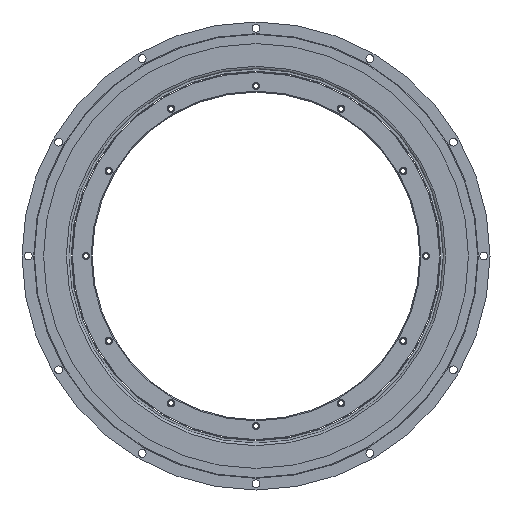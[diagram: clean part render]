
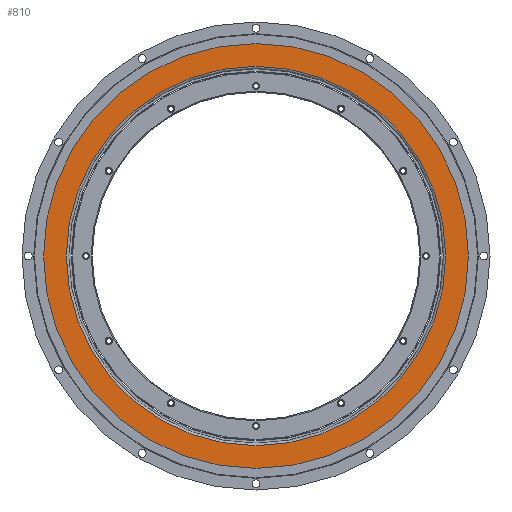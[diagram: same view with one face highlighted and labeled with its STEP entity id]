
A CAD part, front view. The second image highlights one B-rep face of the part: STEP entity #810.
In plain terms, the highlighted planar face has unit normal (0, -1, 0) as drawn and (1, 0, 0) by its records, which use the part's own axes.
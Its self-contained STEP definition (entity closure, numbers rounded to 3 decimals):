
#810=ADVANCED_FACE('',(#1680,#1682),#1684,.T.);
#1680=FACE_BOUND('',#1681,.T.);
#1681=EDGE_LOOP('',(#2021));
#1682=FACE_BOUND('',#1683,.T.);
#1683=EDGE_LOOP('',(#2022));
#1684=PLANE('',#1685);
#1685=AXIS2_PLACEMENT_3D('',#1686,#1687,#1688);
#1686=CARTESIAN_POINT('',(-0.001,0.,0.));
#1687=DIRECTION('',(1.,0.,0.));
#1688=DIRECTION('',(0.,0.,-1.));
#2021=ORIENTED_EDGE('',*,*,#2143,.T.);
#2022=ORIENTED_EDGE('',*,*,#2145,.F.);
#2143=EDGE_CURVE('',#2340,#2340,#2341,.T.);
#2145=EDGE_CURVE('',#2344,#2344,#2345,.F.);
#2340=VERTEX_POINT('',#2824);
#2341=CIRCLE('',#2825,172.5);
#2344=VERTEX_POINT('',#2834);
#2345=CIRCLE('',#2835,154.);
#2824=CARTESIAN_POINT('',(-0.001,0.,-172.5));
#2825=AXIS2_PLACEMENT_3D('',#2826,#2827,#2828);
#2826=CARTESIAN_POINT('',(-0.001,0.,0.));
#2827=DIRECTION('',(1.,0.,0.));
#2828=DIRECTION('',(0.,0.,-1.));
#2834=CARTESIAN_POINT('',(-0.001,0.,154.));
#2835=AXIS2_PLACEMENT_3D('',#2836,#2837,#2838);
#2836=CARTESIAN_POINT('',(-0.001,0.,0.));
#2837=DIRECTION('',(-1.,0.,0.));
#2838=DIRECTION('',(0.,0.,1.));
